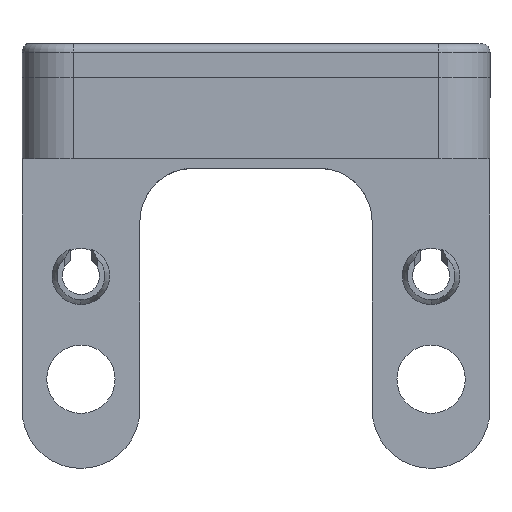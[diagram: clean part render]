
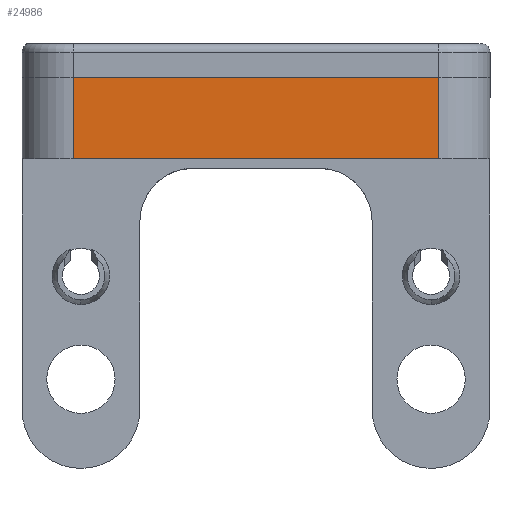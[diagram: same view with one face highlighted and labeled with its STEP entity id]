
A CAD part, front view. The second image highlights one B-rep face of the part: STEP entity #24986.
In plain terms, the highlighted planar face has unit normal (0, -1, 0).
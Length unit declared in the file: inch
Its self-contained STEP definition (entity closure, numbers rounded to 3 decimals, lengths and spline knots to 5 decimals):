
#1014 = FACE_OUTER_BOUND ( 'NONE', #15699, .T. ) ;
#1701 = ORIENTED_EDGE ( 'NONE', *, *, #26468, .F. ) ;
#5770 = AXIS2_PLACEMENT_3D ( 'NONE', #13658, #7038, #13236 ) ;
#7038 = DIRECTION ( 'NONE',  ( 0., -1., 0. ) ) ;
#7387 = EDGE_CURVE ( 'NONE', #26678, #36237, #20238, .T. ) ;
#7786 = LINE ( 'NONE', #28961, #17782 ) ;
#8126 = VECTOR ( 'NONE', #37930, 39.37008 ) ;
#8167 = VECTOR ( 'NONE', #21644, 39.37008 ) ;
#9114 = VERTEX_POINT ( 'NONE', #12655 ) ;
#9624 = CARTESIAN_POINT ( 'NONE',  ( -0.488, 0., -0.4575 ) ) ;
#10747 = LINE ( 'NONE', #34533, #8126 ) ;
#12655 = CARTESIAN_POINT ( 'NONE',  ( -0.488, 0., 0. ) ) ;
#13236 = DIRECTION ( 'NONE',  ( 0., 0., -1. ) ) ;
#13658 = CARTESIAN_POINT ( 'NONE',  ( -0.488, 0., -0.4575 ) ) ;
#15699 = EDGE_LOOP ( 'NONE', ( #39301, #19204, #1701, #34720 ) ) ;
#17039 = VECTOR ( 'NONE', #30678, 39.37008 ) ;
#17782 = VECTOR ( 'NONE', #35110, 39.37008 ) ;
#18130 = VERTEX_POINT ( 'NONE', #22187 ) ;
#19204 = ORIENTED_EDGE ( 'NONE', *, *, #7387, .T. ) ;
#20238 = LINE ( 'NONE', #35126, #8167 ) ;
#21644 = DIRECTION ( 'NONE',  ( 0., 0., 1. ) ) ;
#21701 = LINE ( 'NONE', #9624, #17039 ) ;
#22187 = CARTESIAN_POINT ( 'NONE',  ( -0.488, 0., -0.095 ) ) ;
#24986 = ADVANCED_FACE ( 'NONE', ( #1014 ), #33549, .T. ) ;
#26468 = EDGE_CURVE ( 'NONE', #9114, #36237, #7786, .T. ) ;
#26678 = VERTEX_POINT ( 'NONE', #39928 ) ;
#26812 = CARTESIAN_POINT ( 'NONE',  ( -0.06, 0., 0. ) ) ;
#28129 = EDGE_CURVE ( 'NONE', #18130, #26678, #10747, .T. ) ;
#28644 = EDGE_CURVE ( 'NONE', #18130, #9114, #21701, .T. ) ;
#28961 = CARTESIAN_POINT ( 'NONE',  ( -0.488, 0., 0. ) ) ;
#30678 = DIRECTION ( 'NONE',  ( 0., 0., 1. ) ) ;
#33549 = PLANE ( 'NONE',  #5770 ) ;
#34533 = CARTESIAN_POINT ( 'NONE',  ( -0.548, 0., -0.095 ) ) ;
#34720 = ORIENTED_EDGE ( 'NONE', *, *, #28644, .F. ) ;
#35110 = DIRECTION ( 'NONE',  ( 1., 0., 0. ) ) ;
#35126 = CARTESIAN_POINT ( 'NONE',  ( -0.06, 0., -0.4575 ) ) ;
#36237 = VERTEX_POINT ( 'NONE', #26812 ) ;
#37930 = DIRECTION ( 'NONE',  ( 1., 0., 0. ) ) ;
#39301 = ORIENTED_EDGE ( 'NONE', *, *, #28129, .T. ) ;
#39928 = CARTESIAN_POINT ( 'NONE',  ( -0.06, 0., -0.095 ) ) ;
